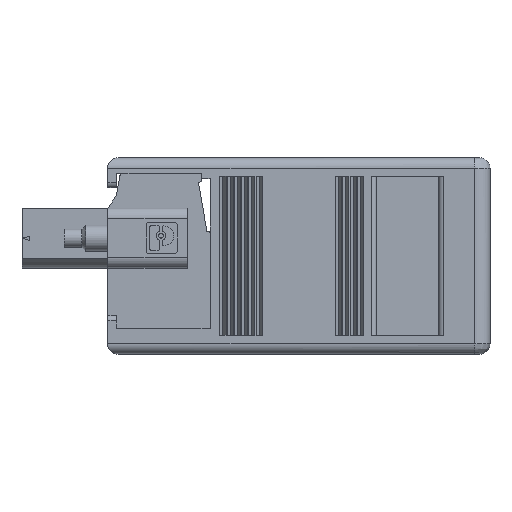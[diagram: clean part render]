
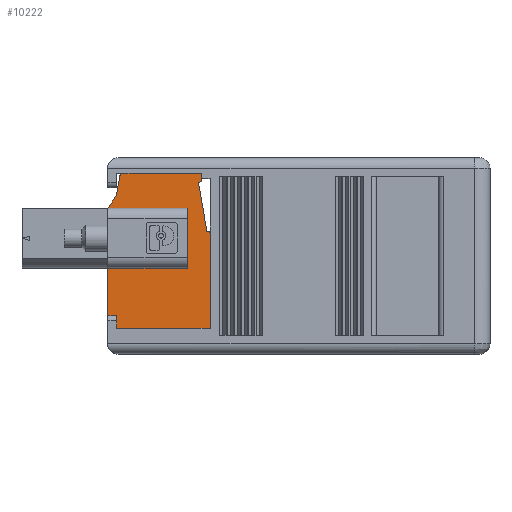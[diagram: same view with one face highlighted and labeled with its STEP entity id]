
A CAD part, top view. The second image highlights one B-rep face of the part: STEP entity #10222.
In plain terms, the highlighted planar face has unit normal (0, 0, 1).
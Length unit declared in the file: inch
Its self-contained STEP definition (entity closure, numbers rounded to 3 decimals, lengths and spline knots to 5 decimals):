
#185=DIRECTION('',(-1.,0.,0.));
#186=VECTOR('',#185,0.03425);
#187=CARTESIAN_POINT('',(1.95262,1.53987,0.1));
#188=LINE('',#187,#186);
#206=DIRECTION('',(0.,1.,0.));
#207=VECTOR('',#206,0.04724);
#208=CARTESIAN_POINT('',(1.95262,1.49263,0.1));
#209=LINE('',#208,#207);
#546=DIRECTION('',(-0.575,-0.818,0.));
#547=VECTOR('',#546,0.05701);
#548=CARTESIAN_POINT('',(1.95113,1.99656,0.1));
#549=LINE('',#548,#547);
#550=DIRECTION('',(-0.174,-0.985,0.));
#551=VECTOR('',#550,0.07804);
#552=CARTESIAN_POINT('',(1.96468,2.07342,0.1));
#553=LINE('',#552,#551);
#554=CARTESIAN_POINT('',(1.97632,2.07137,0.1));
#555=DIRECTION('',(0.,0.,1.));
#556=DIRECTION('',(0.,1.,0.));
#557=AXIS2_PLACEMENT_3D('',#554,#555,#556);
#559=DIRECTION('',(-1.,0.,0.));
#560=VECTOR('',#559,0.29229);
#561=CARTESIAN_POINT('',(2.2686,2.08318,0.1));
#562=LINE('',#561,#560);
#563=CARTESIAN_POINT('',(2.2686,2.0753,0.1));
#564=DIRECTION('',(0.,0.,1.));
#565=DIRECTION('',(0.999,0.044,0.));
#566=AXIS2_PLACEMENT_3D('',#563,#564,#565);
#568=DIRECTION('',(-0.044,0.999,0.));
#569=VECTOR('',#568,0.02202);
#570=CARTESIAN_POINT('',(2.27743,2.05365,0.1));
#571=LINE('',#570,#569);
#572=DIRECTION('',(0.866,0.5,0.));
#573=VECTOR('',#572,0.01548);
#574=CARTESIAN_POINT('',(2.26402,2.04591,0.1));
#575=LINE('',#574,#573);
#576=DIRECTION('',(-0.174,0.985,0.));
#577=VECTOR('',#576,0.18603);
#578=CARTESIAN_POINT('',(2.29633,1.8627,0.1));
#579=LINE('',#578,#577);
#580=CARTESIAN_POINT('',(2.30026,1.85483,0.1));
#581=DIRECTION('',(0.,0.,1.));
#582=DIRECTION('',(1.,0.,0.));
#583=AXIS2_PLACEMENT_3D('',#580,#581,#582);
#585=DIRECTION('',(0.,1.,0.));
#586=VECTOR('',#585,0.3622);
#587=CARTESIAN_POINT('',(2.30814,1.49263,0.1));
#588=LINE('',#587,#586);
#589=DIRECTION('',(1.,0.,0.));
#590=VECTOR('',#589,0.35551);
#591=CARTESIAN_POINT('',(1.95262,1.49263,0.1));
#592=LINE('',#591,#590);
#593=DIRECTION('',(0.,-1.,0.));
#594=VECTOR('',#593,0.18169);
#595=CARTESIAN_POINT('',(1.91837,1.72156,0.1));
#596=LINE('',#595,#594);
#597=DIRECTION('',(0.,-1.,0.));
#598=VECTOR('',#597,0.22835);
#599=CARTESIAN_POINT('',(2.22152,1.94991,0.1));
#600=LINE('',#599,#598);
#605=DIRECTION('',(-1.,0.,0.));
#606=VECTOR('',#605,0.30315);
#607=CARTESIAN_POINT('',(2.22152,1.94991,0.1));
#608=LINE('',#607,#606);
#641=DIRECTION('',(1.,0.,0.));
#642=VECTOR('',#641,0.30315);
#643=CARTESIAN_POINT('',(1.91837,1.72156,0.1));
#644=LINE('',#643,#642);
#2616=DIRECTION('',(1.,0.,0.));
#2617=VECTOR('',#2616,0.00394);
#2618=CARTESIAN_POINT('',(2.29633,1.8627,0.1));
#2619=LINE('',#2618,#2617);
#7302=CARTESIAN_POINT('',(1.91837,1.94991,0.1));
#7303=VERTEX_POINT('',#7302);
#7312=CARTESIAN_POINT('',(1.91837,1.72156,0.1));
#7313=VERTEX_POINT('',#7312);
#7314=CARTESIAN_POINT('',(1.91837,1.53987,0.1));
#7315=VERTEX_POINT('',#7314);
#7386=CARTESIAN_POINT('',(2.27647,2.07565,0.1));
#7387=CARTESIAN_POINT('',(2.2686,2.08318,0.1));
#7388=VERTEX_POINT('',#7386);
#7389=VERTEX_POINT('',#7387);
#7400=CARTESIAN_POINT('',(2.29633,1.8627,0.1));
#7401=VERTEX_POINT('',#7400);
#7402=CARTESIAN_POINT('',(2.26402,2.04591,0.1));
#7403=VERTEX_POINT('',#7402);
#7410=CARTESIAN_POINT('',(2.30814,1.85483,0.1));
#7411=CARTESIAN_POINT('',(2.30026,1.8627,0.1));
#7412=VERTEX_POINT('',#7410);
#7413=VERTEX_POINT('',#7411);
#7432=CARTESIAN_POINT('',(1.95113,1.99656,0.1));
#7433=VERTEX_POINT('',#7432);
#7556=CARTESIAN_POINT('',(1.96468,2.07342,0.1));
#7557=VERTEX_POINT('',#7556);
#7690=CARTESIAN_POINT('',(1.97632,2.08318,0.1));
#7691=VERTEX_POINT('',#7690);
#7700=CARTESIAN_POINT('',(2.30814,1.49263,0.1));
#7701=VERTEX_POINT('',#7700);
#7706=CARTESIAN_POINT('',(1.95262,1.49263,0.1));
#7707=VERTEX_POINT('',#7706);
#7714=CARTESIAN_POINT('',(2.27743,2.05365,0.1));
#7715=VERTEX_POINT('',#7714);
#7860=CARTESIAN_POINT('',(1.95262,1.53987,0.1));
#7861=VERTEX_POINT('',#7860);
#7882=CARTESIAN_POINT('',(2.22152,1.72156,0.1));
#7883=VERTEX_POINT('',#7882);
#7884=CARTESIAN_POINT('',(2.22152,1.94991,0.1));
#7885=VERTEX_POINT('',#7884);
#10189=CARTESIAN_POINT('',(2.04718,1.90976,0.1));
#10190=DIRECTION('',(0.,0.,1.));
#10191=DIRECTION('',(1.,0.,0.));
#10192=AXIS2_PLACEMENT_3D('',#10189,#10190,#10191);
#10193=PLANE('',#10192);
#10195=ORIENTED_EDGE('',*,*,#10194,.T.);
#10197=ORIENTED_EDGE('',*,*,#10196,.F.);
#10199=ORIENTED_EDGE('',*,*,#10198,.F.);
#10200=ORIENTED_EDGE('',*,*,#9872,.F.);
#10201=ORIENTED_EDGE('',*,*,#9891,.F.);
#10202=ORIENTED_EDGE('',*,*,#9914,.F.);
#10203=ORIENTED_EDGE('',*,*,#10111,.F.);
#10205=ORIENTED_EDGE('',*,*,#10204,.F.);
#10207=ORIENTED_EDGE('',*,*,#10206,.F.);
#10209=ORIENTED_EDGE('',*,*,#10208,.T.);
#10210=ORIENTED_EDGE('',*,*,#10151,.F.);
#10211=ORIENTED_EDGE('',*,*,#10170,.F.);
#10212=ORIENTED_EDGE('',*,*,#10183,.F.);
#10213=ORIENTED_EDGE('',*,*,#9691,.T.);
#10214=ORIENTED_EDGE('',*,*,#9661,.T.);
#10215=ORIENTED_EDGE('',*,*,#9636,.F.);
#10217=ORIENTED_EDGE('',*,*,#10216,.T.);
#10219=ORIENTED_EDGE('',*,*,#10218,.F.);
#10220=EDGE_LOOP('',(#10195,#10197,#10199,#10200,#10201,#10202,#10203,#10205,
#10207,#10209,#10210,#10211,#10212,#10213,#10214,#10215,#10217,#10219));
#10221=FACE_OUTER_BOUND('',#10220,.F.);
#10222=ADVANCED_FACE('',(#10221),#10193,.T.);
#558=CIRCLE('',#557,0.01181);
#567=CIRCLE('',#566,0.00787);
#584=CIRCLE('',#583,0.00787);
#9636=EDGE_CURVE('',#7313,#7315,#596,.T.);
#9661=EDGE_CURVE('',#7861,#7315,#188,.T.);
#9691=EDGE_CURVE('',#7707,#7861,#209,.T.);
#9872=EDGE_CURVE('',#7691,#7557,#558,.T.);
#9891=EDGE_CURVE('',#7389,#7691,#562,.T.);
#9914=EDGE_CURVE('',#7388,#7389,#567,.T.);
#10111=EDGE_CURVE('',#7715,#7388,#571,.T.);
#10151=EDGE_CURVE('',#7412,#7413,#584,.T.);
#10170=EDGE_CURVE('',#7701,#7412,#588,.T.);
#10183=EDGE_CURVE('',#7707,#7701,#592,.T.);
#10194=EDGE_CURVE('',#7885,#7303,#608,.T.);
#10196=EDGE_CURVE('',#7433,#7303,#549,.T.);
#10198=EDGE_CURVE('',#7557,#7433,#553,.T.);
#10204=EDGE_CURVE('',#7403,#7715,#575,.T.);
#10206=EDGE_CURVE('',#7401,#7403,#579,.T.);
#10208=EDGE_CURVE('',#7401,#7413,#2619,.T.);
#10216=EDGE_CURVE('',#7313,#7883,#644,.T.);
#10218=EDGE_CURVE('',#7885,#7883,#600,.T.);
